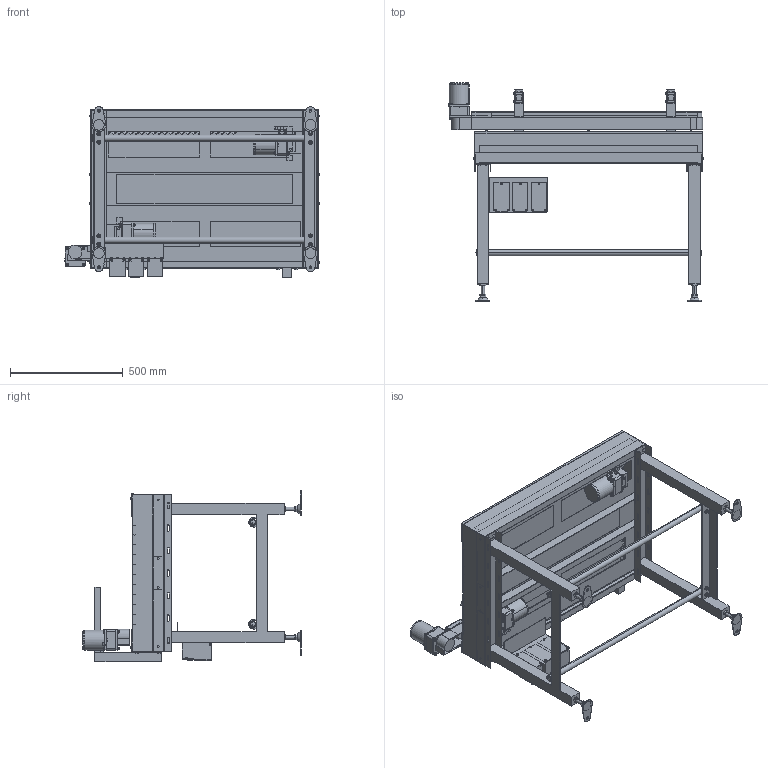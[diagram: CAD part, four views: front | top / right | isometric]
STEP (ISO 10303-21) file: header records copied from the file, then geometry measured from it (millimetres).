
FILE_DESCRIPTION( (''), '2;1');
FILE_NAME ('SGA-304x3-500-R-IVH-15-D.stp','2025-01-31T09:22:15',(''),(''),'spGate 20.6.2 (****-****-****-****)','','');
FILE_SCHEMA (('AUTOMOTIVE_DESIGN'));
Length unit declared in the file: millimetre
Products named in the file (94): NewModel; TEMP_X_T-prt0; TEMP_X_T-prt1; TEMP_X_T-prt2; TEMP_X_T-prt3; TEMP_X_T-prt4; TEMP_X_T-prt5; TEMP_X_T-prt6; TEMP_X_T-prt7; TEMP_X_T-prt8; TEMP_X_T-prt9; TEMP_X_T-prt10; TEMP_X_T-prt11; TEMP_X_T-prt12; TEMP_X_T-prt13; TEMP_X_T-prt14; TEMP_X_T-prt15; TEMP_X_T-prt16; TEMP_X_T-prt17; TEMP_X_T-prt18; TEMP_X_T-prt19; TEMP_X_T-prt20; TEMP_X_T-prt21; TEMP_X_T-prt22; TEMP_X_T-prt23; TEMP_X_T-prt24; TEMP_X_T-prt25; TEMP_X_T-prt26; TEMP_X_T-prt27; TEMP_X_T-prt28; TEMP_X_T-prt29; TEMP_X_T-prt30; TEMP_X_T-prt31; TEMP_X_T-prt32; TEMP_X_T-prt33; TEMP_X_T-prt34; TEMP_X_T-prt35; TEMP_X_T-prt36; TEMP_X_T-prt37; TEMP_X_T-prt38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
Assembly tree (93 placements, depth 2):
  NewModel
    TEMP_X_T-prt0
    TEMP_X_T-prt1
    TEMP_X_T-prt2
    TEMP_X_T-prt3
    TEMP_X_T-prt4
    TEMP_X_T-prt5
    TEMP_X_T-prt6
    TEMP_X_T-prt7
    TEMP_X_T-prt8
    TEMP_X_T-prt9
    TEMP_X_T-prt10
    TEMP_X_T-prt11
    TEMP_X_T-prt12
    TEMP_X_T-prt13
    TEMP_X_T-prt14
    TEMP_X_T-prt15
    TEMP_X_T-prt16
    TEMP_X_T-prt17
    TEMP_X_T-prt18
    TEMP_X_T-prt19
    TEMP_X_T-prt20
    TEMP_X_T-prt21
    TEMP_X_T-prt22
    TEMP_X_T-prt23
    TEMP_X_T-prt24
    TEMP_X_T-prt25
    TEMP_X_T-prt26
    TEMP_X_T-prt27
    TEMP_X_T-prt28
    TEMP_X_T-prt29
    TEMP_X_T-prt30
    TEMP_X_T-prt31
    TEMP_X_T-prt32
    TEMP_X_T-prt33
    TEMP_X_T-prt34
    TEMP_X_T-prt35
    TEMP_X_T-prt36
    TEMP_X_T-prt37
    TEMP_X_T-prt38
    TEMP_X_T-prt39
    TEMP_X_T-prt40
    TEMP_X_T-prt41
    TEMP_X_T-prt42
    TEMP_X_T-prt43
    TEMP_X_T-prt44
    TEMP_X_T-prt45
    TEMP_X_T-prt46
    TEMP_X_T-prt47
    TEMP_X_T-prt48
    TEMP_X_T-prt49
    TEMP_X_T-prt50
    TEMP_X_T-prt51
    TEMP_X_T-prt52
    TEMP_X_T-prt53
    TEMP_X_T-prt54
    TEMP_X_T-prt55
    TEMP_X_T-prt56
    TEMP_X_T-prt57
    TEMP_X_T-prt58
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Bounding box: 1134.17 x 969.4 x 760 mm (x, y, z)
Volume: 29664048.2 mm3; surface area: 6863177.7 mm2
Topology: 93 solids, 93 shells, 3432 faces, 8489 edges, 5430 vertices
Faces by surface type: plane 2246, cylinder 807, bspline 363, sphere 16
Entity records: 176119 total; most frequent: CARTESIAN_POINT 25400, ORIENTED_EDGE 16882, DIRECTION 15857, COLOUR_RGB 11966, PRESENTATION_STYLE_ASSIGNMENT 11966, STYLED_ITEM 11966, EDGE_CURVE 8441, DRAUGHTING_PRE_DEFINED_CURVE_FONT 8441
